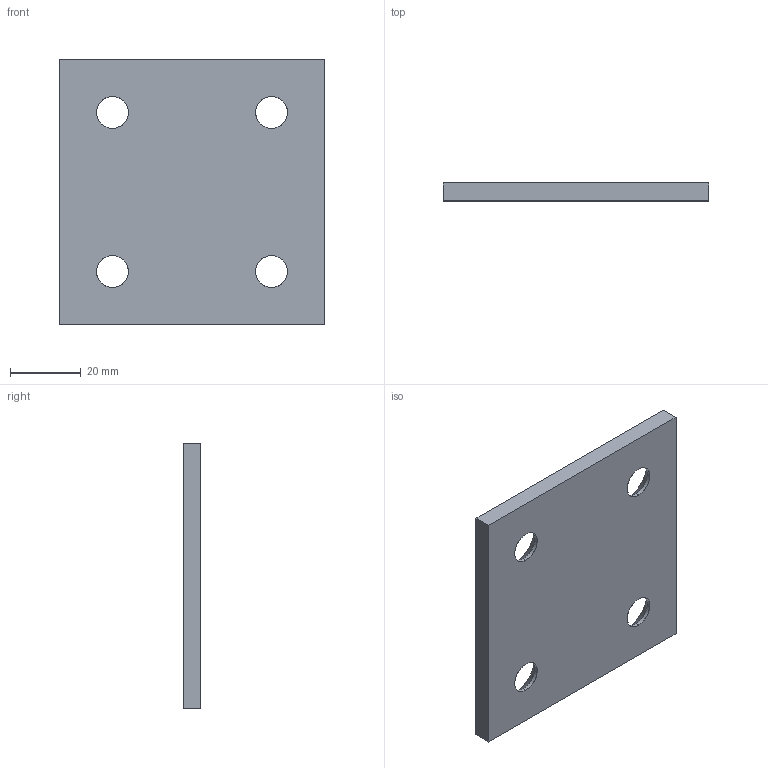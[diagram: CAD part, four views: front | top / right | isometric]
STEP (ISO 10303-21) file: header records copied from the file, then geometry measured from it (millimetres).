
FILE_DESCRIPTION(('CATIA V5 STEP Exchange'),'2;1');
FILE_NAME('C:\Users\Utente\Desktop\3D files A605\A605-075-075.stp','2020-04-13T15:43:38+00:00',('none'),('none'),'CATIA Version 5 Release 20 GA (IN-10)','CATIA V5 STEP AP203','none');
FILE_SCHEMA(('CONFIG_CONTROL_DESIGN'));
Length unit declared in the file: millimetre
Products named in the file (1): Noname
Bounding box: 75 x 5 x 75 mm (x, y, z)
Surface area: 12624.9 mm2 (no closed solid volume)
Topology: 0 solids, 14 shells, 22 faces, 88 edges, 72 vertices
Faces by surface type: cylinder 8, revolution 8, extrusion 6
Entity records: 1146 total; most frequent: CARTESIAN_POINT 405, ORIENTED_EDGE 104, DIRECTION 102, EDGE_CURVE 88, VERTEX_POINT 72, VECTOR 46, AXIS2_PLACEMENT_3D 41, LINE 40
